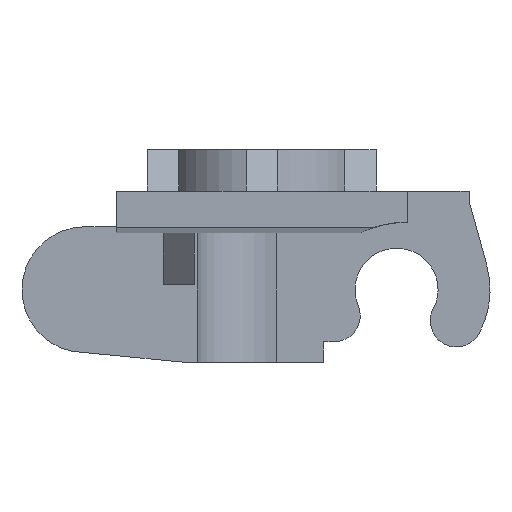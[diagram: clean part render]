
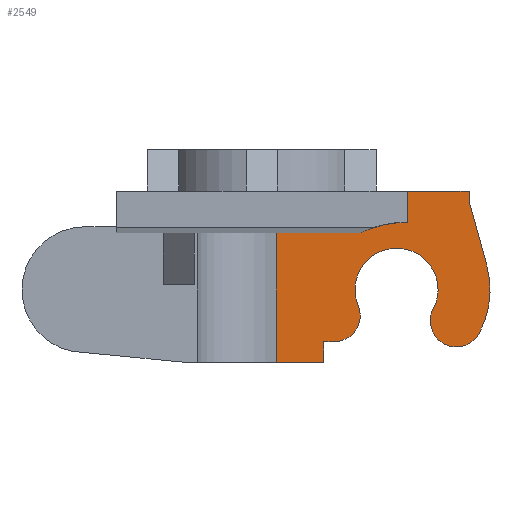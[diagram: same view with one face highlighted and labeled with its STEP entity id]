
A CAD part, front view. The second image highlights one B-rep face of the part: STEP entity #2549.
In plain terms, the highlighted planar face has unit normal (0, -1, 0).
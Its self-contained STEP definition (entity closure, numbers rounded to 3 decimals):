
#113=CIRCLE('',#2685,4.213);
#116=CIRCLE('',#2701,3.6);
#117=CIRCLE('',#2703,1.191);
#118=CIRCLE('',#2705,1.);
#119=CIRCLE('',#2707,1.6);
#120=CIRCLE('',#2709,1.);
#816=ORIENTED_EDGE('',*,*,#1045,.F.);
#817=ORIENTED_EDGE('',*,*,#1158,.F.);
#818=ORIENTED_EDGE('',*,*,#1156,.F.);
#819=ORIENTED_EDGE('',*,*,#1154,.F.);
#820=ORIENTED_EDGE('',*,*,#1152,.F.);
#821=ORIENTED_EDGE('',*,*,#1150,.F.);
#822=ORIENTED_EDGE('',*,*,#1148,.F.);
#823=ORIENTED_EDGE('',*,*,#1162,.F.);
#824=ORIENTED_EDGE('',*,*,#1159,.F.);
#825=ORIENTED_EDGE('',*,*,#854,.F.);
#826=ORIENTED_EDGE('',*,*,#1116,.F.);
#827=ORIENTED_EDGE('',*,*,#1142,.F.);
#828=ORIENTED_EDGE('',*,*,#1090,.F.);
#829=ORIENTED_EDGE('',*,*,#1168,.F.);
#830=ORIENTED_EDGE('',*,*,#1107,.F.);
#831=ORIENTED_EDGE('',*,*,#1114,.F.);
#854=EDGE_CURVE('',#1213,#1214,#1448,.T.);
#1045=EDGE_CURVE('',#1360,#1361,#1600,.T.);
#1090=EDGE_CURVE('',#1394,#1395,#1635,.T.);
#1107=EDGE_CURVE('',#1405,#1406,#1651,.T.);
#1114=EDGE_CURVE('',#1361,#1405,#1656,.T.);
#1116=EDGE_CURVE('',#1409,#1213,#1658,.T.);
#1142=EDGE_CURVE('',#1395,#1409,#113,.T.);
#1148=EDGE_CURVE('',#1422,#1423,#1683,.T.);
#1150=EDGE_CURVE('',#1423,#1424,#116,.T.);
#1152=EDGE_CURVE('',#1424,#1425,#117,.F.);
#1154=EDGE_CURVE('',#1425,#1426,#118,.T.);
#1156=EDGE_CURVE('',#1426,#1427,#119,.T.);
#1158=EDGE_CURVE('',#1427,#1360,#120,.T.);
#1159=EDGE_CURVE('',#1214,#1428,#1689,.T.);
#1162=EDGE_CURVE('',#1428,#1422,#1692,.T.);
#1168=EDGE_CURVE('',#1406,#1394,#1698,.T.);
#1213=VERTEX_POINT('',#3497);
#1214=VERTEX_POINT('',#3499);
#1360=VERTEX_POINT('',#3872);
#1361=VERTEX_POINT('',#3874);
#1394=VERTEX_POINT('',#3959);
#1395=VERTEX_POINT('',#3961);
#1405=VERTEX_POINT('',#3992);
#1406=VERTEX_POINT('',#3994);
#1409=VERTEX_POINT('',#4008);
#1422=VERTEX_POINT('',#4076);
#1423=VERTEX_POINT('',#4078);
#1424=VERTEX_POINT('',#4082);
#1425=VERTEX_POINT('',#4086);
#1426=VERTEX_POINT('',#4090);
#1427=VERTEX_POINT('',#4094);
#1428=VERTEX_POINT('',#4100);
#1448=LINE('',#3498,#1732);
#1600=LINE('',#3873,#1884);
#1635=LINE('',#3960,#1919);
#1651=LINE('',#3993,#1935);
#1656=LINE('',#4005,#1940);
#1658=LINE('',#4010,#1942);
#1683=LINE('',#4077,#1967);
#1689=LINE('',#4099,#1973);
#1692=LINE('',#4104,#1976);
#1698=LINE('',#4115,#1982);
#1732=VECTOR('',#2785,1000.);
#1884=VECTOR('',#3089,1000.);
#1919=VECTOR('',#3160,1000.);
#1935=VECTOR('',#3188,1000.);
#1940=VECTOR('',#3201,1000.);
#1942=VECTOR('',#3205,1000.);
#1967=VECTOR('',#3290,1000.);
#1973=VECTOR('',#3318,1000.);
#1976=VECTOR('',#3323,1000.);
#1982=VECTOR('',#3335,1000.);
#2160=EDGE_LOOP('',(#816,#817,#818,#819,#820,#821,#822,#823,#824,#825,#826,
#827,#828,#829,#830,#831));
#2312=FACE_BOUND('',#2160,.T.);
#2413=PLANE('',#2773);
#2549=ADVANCED_FACE('',(#2312),#2413,.F.);
#2685=AXIS2_PLACEMENT_3D('',#4056,#3257,#3258);
#2701=AXIS2_PLACEMENT_3D('',#4081,#3294,#3295);
#2703=AXIS2_PLACEMENT_3D('',#4085,#3299,#3300);
#2705=AXIS2_PLACEMENT_3D('',#4089,#3304,#3305);
#2707=AXIS2_PLACEMENT_3D('',#4093,#3309,#3310);
#2709=AXIS2_PLACEMENT_3D('',#4097,#3314,#3315);
#2773=AXIS2_PLACEMENT_3D('',#4212,#3479,#3480);
#2785=DIRECTION('',(1.,0.,0.));
#3089=DIRECTION('',(-1.,0.,0.));
#3160=DIRECTION('',(1.,0.,0.));
#3188=DIRECTION('',(-1.,0.,0.));
#3201=DIRECTION('',(0.,0.,-1.));
#3205=DIRECTION('',(0.,0.,1.));
#3257=DIRECTION('',(0.,1.,0.));
#3258=DIRECTION('',(-1.,0.,0.));
#3290=DIRECTION('',(0.265,0.,-0.964));
#3294=DIRECTION('',(0.,1.,0.));
#3295=DIRECTION('',(0.,0.,1.));
#3299=DIRECTION('',(0.,1.,0.));
#3300=DIRECTION('',(0.,0.,1.));
#3304=DIRECTION('',(0.,1.,0.));
#3305=DIRECTION('',(0.,0.,1.));
#3309=DIRECTION('',(0.,-1.,0.));
#3310=DIRECTION('',(0.,0.,-1.));
#3314=DIRECTION('',(0.,1.,0.));
#3315=DIRECTION('',(-1.,0.,0.));
#3318=DIRECTION('',(0.,0.,-1.));
#3323=DIRECTION('',(0.269,0.,-0.963));
#3335=DIRECTION('',(0.,0.,1.));
#3479=DIRECTION('',(0.,1.,0.));
#3480=DIRECTION('',(0.,0.,1.));
#3497=CARTESIAN_POINT('',(5.6,-5.5,1.6));
#3498=CARTESIAN_POINT('',(5.6,-5.5,1.6));
#3499=CARTESIAN_POINT('',(7.985,-5.5,1.6));
#3872=CARTESIAN_POINT('',(2.79,-5.5,-4.2));
#3873=CARTESIAN_POINT('',(2.79,-5.5,-4.2));
#3874=CARTESIAN_POINT('',(2.39,-5.5,-4.2));
#3959=CARTESIAN_POINT('',(0.566,-5.5,0.));
#3960=CARTESIAN_POINT('',(0.076,-5.5,0.));
#3961=CARTESIAN_POINT('',(3.803,-5.5,0.));
#3992=CARTESIAN_POINT('',(2.39,-5.5,-5.));
#3993=CARTESIAN_POINT('',(2.39,-5.5,-5.));
#3994=CARTESIAN_POINT('',(0.566,-5.5,-5.));
#4005=CARTESIAN_POINT('',(2.39,-5.5,-4.2));
#4008=CARTESIAN_POINT('',(5.6,-5.5,0.403));
#4010=CARTESIAN_POINT('',(5.6,-5.5,1.6));
#4056=CARTESIAN_POINT('',(5.6,-5.5,-3.81));
#4076=CARTESIAN_POINT('',(8.319,-5.5,0.));
#4077=CARTESIAN_POINT('',(7.989,-5.5,1.2));
#4078=CARTESIAN_POINT('',(8.661,-5.5,-1.246));
#4081=CARTESIAN_POINT('',(5.19,-5.5,-2.2));
#4082=CARTESIAN_POINT('',(8.397,-5.5,-3.834));
#4085=CARTESIAN_POINT('',(9.382,-5.5,-4.504));
#4086=CARTESIAN_POINT('',(8.353,-5.5,-3.904));
#4089=CARTESIAN_POINT('',(7.49,-5.5,-3.4));
#4090=CARTESIAN_POINT('',(6.567,-5.5,-3.014));
#4093=CARTESIAN_POINT('',(5.19,-5.5,-2.2));
#4094=CARTESIAN_POINT('',(3.713,-5.5,-2.815));
#4097=CARTESIAN_POINT('',(2.79,-5.5,-3.2));
#4099=CARTESIAN_POINT('',(7.985,-5.5,1.196));
#4100=CARTESIAN_POINT('',(7.985,-5.5,1.196));
#4104=CARTESIAN_POINT('',(7.985,-5.5,1.196));
#4115=CARTESIAN_POINT('',(0.566,-5.5,-12.942));
#4212=CARTESIAN_POINT('',(7.49,-5.5,-3.4));
